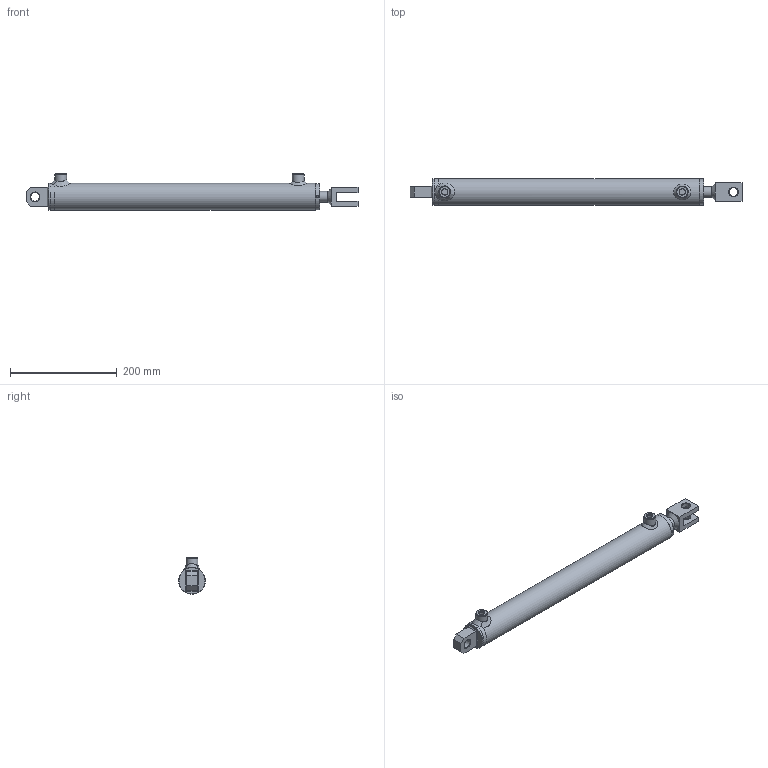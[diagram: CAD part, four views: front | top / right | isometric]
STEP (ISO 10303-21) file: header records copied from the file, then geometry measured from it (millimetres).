
FILE_DESCRIPTION( ( 'Unknown' ), '1' );
FILE_NAME( 'E:/LIBRERIA_3d/CILINDRI/HM5/HM51200400.stp', 'Unknown', ( 'Unknown' ), ( 'Unknown' ), 'PSStep 17.0.49', 'Unknown', ' ' );
FILE_SCHEMA( ( 'AUTOMOTIVE_DESIGN { 1 0 10303 214 1 1 1 1 }' ) );
Length unit declared in the file: millimetre
Products named in the file (26): CT00040015; STL1500400-oa6; Saldatura d'angolo 1-oa4; FTM1500400-oa5; CBSC220400; CG05004020; HM01200400; Saldatura con preparazione 1-oa2; Saldatura d'angolo 1-oa3; CF00040050; CDA0001415; CBS0400000; APG0400000; SBL2010400; Assem1; COF1600000; CFS0000016; Saldatura d'angolo 1-oa0; Saldatura d'angolo 2-oa1
Assembly tree (18 placements, depth 4):
  Saldatura d'angolo 1-oa4
  Saldatura d'angolo 1-oa4
  Saldatura d'angolo 1-oa3
  Saldatura d'angolo 1-oa3
  Assem1
    COF1600000
    CFS0000016
    HM01200400
      Saldatura con preparazione 1-oa2
      Saldatura con preparazione 1-oa2
      CF00040050
      CDA0001415
      CBS0400000
      APG0400000  x2
      SBL2010400
      CT00040015
        CT00040015
      CG05004020
        CG05004020
      STL1500400-oa6
        FTM1500400-oa5
        CBSC220400
Bounding box: 622 x 50 x 68 mm (x, y, z)
Volume: 669282.5 mm3; surface area: 244101.5 mm2
Topology: 22 solids, 22 shells, 253 faces, 531 edges, 329 vertices
Faces by surface type: plane 94, cylinder 63, cone 46, torus 32, bspline 18
Full cylindrical faces by diameter (mm): 4 x4, 4.25 x3, 7 x2, 11.445 x2, 12 x2, 13.1 x2, 14 x2, 15 x3, 16.2 x3, 19.5 x1, 20 x8, 22 x4, 23 x1, 28 x1, 28.6 x1, 30 x1, 35 x1, 35.4 x2, 38.5 x2, 39.9 x1, 40 x1, 40.3 x1, 40.5 x1, 40.6 x1, 41 x1, 42 x3, 42.5 x1, 44 x1, 49 x1, 50 x4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
Entity records: 10622 total; most frequent: CARTESIAN_POINT 4065, DIRECTION 992, ORIENTED_EDGE 660, AXIS2_PLACEMENT_3D 442, EDGE_LOOP 434, FACE_OUTER_BOUND 342, EDGE_CURVE 330, VERTEX_POINT 279
